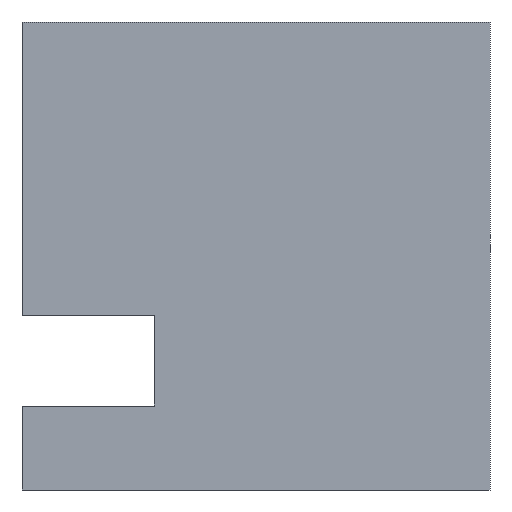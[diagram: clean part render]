
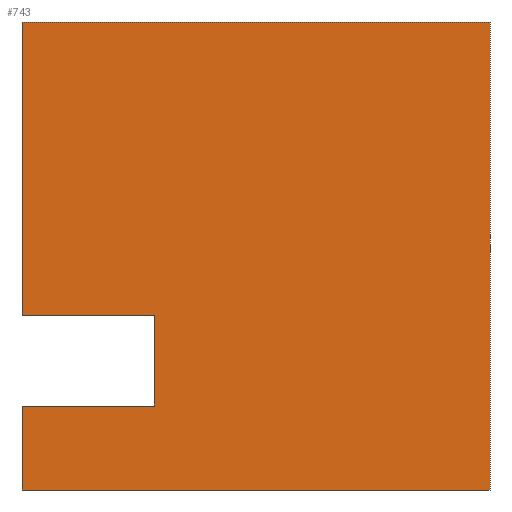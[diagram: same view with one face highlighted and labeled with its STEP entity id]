
A CAD part, front view. The second image highlights one B-rep face of the part: STEP entity #743.
In plain terms, the highlighted planar face has unit normal (0, -1, 0).
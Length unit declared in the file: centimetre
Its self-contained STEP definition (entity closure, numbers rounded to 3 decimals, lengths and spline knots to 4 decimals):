
#16 = CARTESIAN_POINT ( 'NONE',  ( 0., 0., 1000. ) ) ;
#56 = DIRECTION ( 'NONE',  ( 0., 0., -1. ) ) ;
#70 = EDGE_LOOP ( 'NONE', ( #126, #359, #246, #163, #691, #240, #728, #670 ) ) ;
#82 = CARTESIAN_POINT ( 'NONE',  ( 0., 0., 373.1828 ) ) ;
#83 = VERTEX_POINT ( 'NONE', #794 ) ;
#88 = CARTESIAN_POINT ( 'NONE',  ( 282.8489, 0., 179.461 ) ) ;
#102 = AXIS2_PLACEMENT_3D ( 'NONE', #353, #831, #273 ) ;
#126 = ORIENTED_EDGE ( 'NONE', *, *, #557, .T. ) ;
#134 = LINE ( 'NONE', #479, #858 ) ;
#143 = EDGE_CURVE ( 'NONE', #83, #795, #391, .T. ) ;
#163 = ORIENTED_EDGE ( 'NONE', *, *, #450, .F. ) ;
#165 = EDGE_CURVE ( 'NONE', #822, #220, #407, .T. ) ;
#220 = VERTEX_POINT ( 'NONE', #325 ) ;
#225 = CARTESIAN_POINT ( 'NONE',  ( 0., 0., 0. ) ) ;
#240 = ORIENTED_EDGE ( 'NONE', *, *, #567, .T. ) ;
#246 = ORIENTED_EDGE ( 'NONE', *, *, #633, .F. ) ;
#259 = VERTEX_POINT ( 'NONE', #699 ) ;
#261 = CARTESIAN_POINT ( 'NONE',  ( 0., 0., 1000. ) ) ;
#273 = DIRECTION ( 'NONE',  ( 0., 0., 1. ) ) ;
#303 = VECTOR ( 'NONE', #56, 100. ) ;
#308 = VERTEX_POINT ( 'NONE', #88 ) ;
#309 = CARTESIAN_POINT ( 'NONE',  ( 1000., 0., 1000. ) ) ;
#325 = CARTESIAN_POINT ( 'NONE',  ( 1000., 0., 0. ) ) ;
#334 = LINE ( 'NONE', #261, #658 ) ;
#338 = FACE_OUTER_BOUND ( 'NONE', #70, .T. ) ;
#352 = VERTEX_POINT ( 'NONE', #82 ) ;
#353 = CARTESIAN_POINT ( 'NONE',  ( 0., 0., 1000. ) ) ;
#359 = ORIENTED_EDGE ( 'NONE', *, *, #724, .F. ) ;
#362 = VECTOR ( 'NONE', #738, 100. ) ;
#391 = LINE ( 'NONE', #394, #701 ) ;
#394 = CARTESIAN_POINT ( 'NONE',  ( 0., 0., 1000. ) ) ;
#407 = LINE ( 'NONE', #661, #303 ) ;
#423 = LINE ( 'NONE', #16, #521 ) ;
#443 = VERTEX_POINT ( 'NONE', #846 ) ;
#450 = EDGE_CURVE ( 'NONE', #83, #308, #772, .T. ) ;
#463 = CARTESIAN_POINT ( 'NONE',  ( 282.8489, 0., 179.461 ) ) ;
#476 = DIRECTION ( 'NONE',  ( 1., 0., 0. ) ) ;
#479 = CARTESIAN_POINT ( 'NONE',  ( 0., 0., 373.1828 ) ) ;
#506 = CARTESIAN_POINT ( 'NONE',  ( 0., 0., 179.461 ) ) ;
#521 = VECTOR ( 'NONE', #476, 100. ) ;
#544 = PLANE ( 'NONE',  #102 ) ;
#557 = EDGE_CURVE ( 'NONE', #443, #352, #334, .T. ) ;
#567 = EDGE_CURVE ( 'NONE', #795, #220, #591, .T. ) ;
#591 = LINE ( 'NONE', #608, #362 ) ;
#602 = VECTOR ( 'NONE', #647, 100. ) ;
#608 = CARTESIAN_POINT ( 'NONE',  ( 0., 0., 0. ) ) ;
#628 = VECTOR ( 'NONE', #867, 100. ) ;
#633 = EDGE_CURVE ( 'NONE', #308, #259, #884, .T. ) ;
#647 = DIRECTION ( 'NONE',  ( 1., 0., 0. ) ) ;
#658 = VECTOR ( 'NONE', #879, 100. ) ;
#661 = CARTESIAN_POINT ( 'NONE',  ( 1000., 0., 1000. ) ) ;
#670 = ORIENTED_EDGE ( 'NONE', *, *, #765, .F. ) ;
#674 = DIRECTION ( 'NONE',  ( 0., 0., -1. ) ) ;
#691 = ORIENTED_EDGE ( 'NONE', *, *, #143, .T. ) ;
#699 = CARTESIAN_POINT ( 'NONE',  ( 282.8489, 0., 373.1828 ) ) ;
#701 = VECTOR ( 'NONE', #674, 100. ) ;
#724 = EDGE_CURVE ( 'NONE', #259, #352, #134, .T. ) ;
#728 = ORIENTED_EDGE ( 'NONE', *, *, #165, .F. ) ;
#738 = DIRECTION ( 'NONE',  ( 1., 0., 0. ) ) ;
#743 = ADVANCED_FACE ( 'NONE', ( #338 ), #544, .F. ) ;
#765 = EDGE_CURVE ( 'NONE', #443, #822, #423, .T. ) ;
#772 = LINE ( 'NONE', #506, #602 ) ;
#794 = CARTESIAN_POINT ( 'NONE',  ( 0., 0., 179.461 ) ) ;
#795 = VERTEX_POINT ( 'NONE', #225 ) ;
#822 = VERTEX_POINT ( 'NONE', #309 ) ;
#827 = DIRECTION ( 'NONE',  ( -1., 0., 0. ) ) ;
#831 = DIRECTION ( 'NONE',  ( 0., 1., 0. ) ) ;
#846 = CARTESIAN_POINT ( 'NONE',  ( 0., 0., 1000. ) ) ;
#858 = VECTOR ( 'NONE', #827, 100. ) ;
#867 = DIRECTION ( 'NONE',  ( 0., 0., 1. ) ) ;
#879 = DIRECTION ( 'NONE',  ( 0., 0., -1. ) ) ;
#884 = LINE ( 'NONE', #463, #628 ) ;
